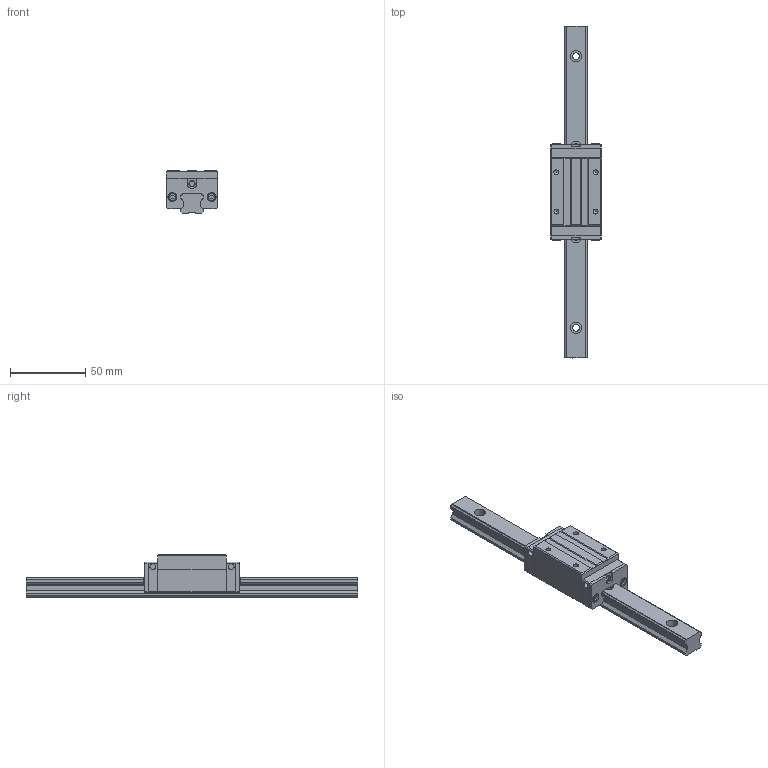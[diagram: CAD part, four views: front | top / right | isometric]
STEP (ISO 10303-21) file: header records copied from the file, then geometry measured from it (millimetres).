
FILE_DESCRIPTION( ( 'Unknown' ), '1' );
FILE_NAME( 'C:/Documents and Settings/c/官帕 拳搁/15/SBI 15 SL.stp', 'Unknown', ( 'Unknown' ), ( 'Unknown' ), 'XStep 1.0', 'Unknown', ' ' );
FILE_SCHEMA( ( 'automotive_design' ) );
Length unit declared in the file: millimetre
Products named in the file (7): Assem1; SBI-15SL BLOCK; RAIL
Bounding box: 34 x 220 x 28 mm (x, y, z)
Volume: 145419.8 mm3; surface area: 57834.8 mm2
Topology: 12 solids, 12 shells, 650 faces, 1732 edges, 1156 vertices
Faces by surface type: plane 510, cylinder 92, extrusion 32, cone 8, torus 8
Full cylindrical faces by diameter (mm): 3.242 x8, 3.4 x8, 3.5 x4, 3.818 x8, 4.1 x4, 4.5 x8, 5.5 x8, 6 x8, 7.5 x8
Entity records: 10730 total; most frequent: CARTESIAN_POINT 2304, ORIENTED_EDGE 1616, DIRECTION 1532, EDGE_CURVE 808, VECTOR 684, LINE 668, VERTEX_POINT 564, AXIS2_PLACEMENT_3D 424
